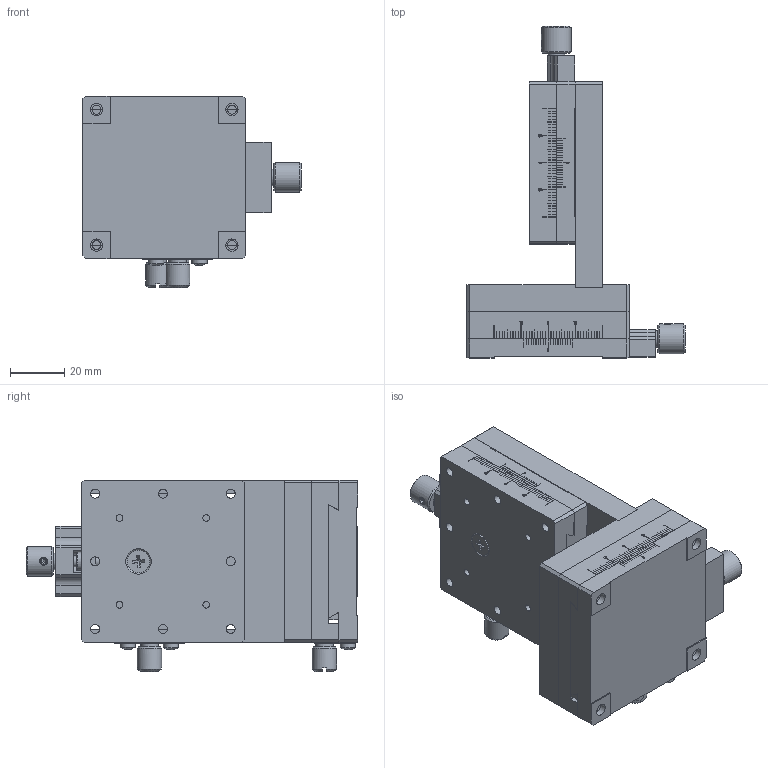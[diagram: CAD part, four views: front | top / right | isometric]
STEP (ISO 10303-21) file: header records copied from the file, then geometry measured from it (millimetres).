
FILE_DESCRIPTION (( 'STEP AP203' ), '1' );
FILE_NAME ('BFE60.STEP', '2024-07-31T06:19:30', ( 'Windows User' ), ( 'P R C' ), 'SwSTEP 2.0', 'SolidWorks 2024', '' );
FILE_SCHEMA (( 'CONFIG_CONTROL_DESIGN' ));
Length unit declared in the file: millimetre
Products named in the file (1): BFE60
Bounding box: 80.5 x 122.5 x 70.8 mm (x, y, z)
Volume: 194726.4 mm3; surface area: 82240.2 mm2
Topology: 34 solids, 34 shells, 1409 faces, 3678 edges, 2396 vertices
Faces by surface type: plane 1043, cylinder 197, bspline 88, cone 69, torus 8, sphere 4
Full cylindrical faces by diameter (mm): 2.5 x28, 3 x10, 3.2 x4, 3.3 x27, 4 x12, 4.1 x6, 4.5 x17, 5.5 x4, 5.6 x4, 5.8 x4, 6 x2, 6.094 x2, 6.2 x4, 6.5 x2, 6.8 x2, 7 x4, 8 x15, 8.4 x2, 9 x2, 9.9 x2, 11 x4
Entity records: 50947 total; most frequent: CARTESIAN_POINT 18504, ORIENTED_EDGE 6784, DIRECTION 5884, EDGE_CURVE 3392, VERTEX_POINT 2344, VECTOR 2160, LINE 2160, AXIS2_PLACEMENT_3D 1862
